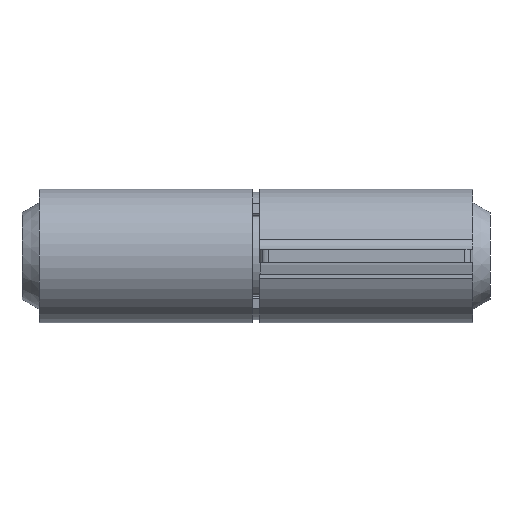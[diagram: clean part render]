
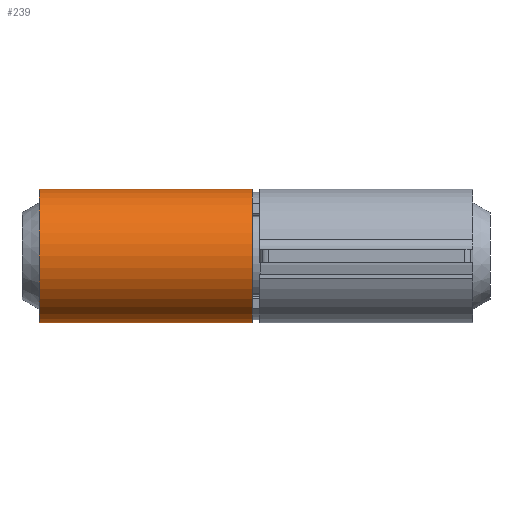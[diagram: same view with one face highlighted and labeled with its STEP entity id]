
A CAD part, front view. The second image highlights one B-rep face of the part: STEP entity #239.
In plain terms, the highlighted cylindrical face has radius 5.963 mm (diameter 11.925 mm), a partial arc.
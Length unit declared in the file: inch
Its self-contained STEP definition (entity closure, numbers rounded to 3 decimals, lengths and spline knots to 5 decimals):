
#239=ADVANCED_FACE('',(#484),#485,.T.);
#484=FACE_OUTER_BOUND('',#747,.T.);
#485=CYLINDRICAL_SURFACE('',#748,0.23474);
#747=EDGE_LOOP('',(#1306,#1307,#1308,#1309));
#748=AXIS2_PLACEMENT_3D('',#1310,#1311,#1312);
#1306=ORIENTED_EDGE('',*,*,#1728,.T.);
#1307=ORIENTED_EDGE('',*,*,#1737,.F.);
#1308=ORIENTED_EDGE('',*,*,#1633,.T.);
#1309=ORIENTED_EDGE('',*,*,#1641,.F.);
#1310=CARTESIAN_POINT('',(-12.01285,-4.,0.));
#1311=DIRECTION('',(-1.0,0.,0.));
#1312=DIRECTION('',(0.,0.,-1.0));
#1633=EDGE_CURVE('',#1990,#1991,#1992,.T.);
#1641=EDGE_CURVE('',#2002,#1991,#2004,.T.);
#1728=EDGE_CURVE('',#2002,#2122,#2123,.T.);
#1737=EDGE_CURVE('',#1990,#2122,#2133,.T.);
#1990=VERTEX_POINT('',#2437);
#1991=VERTEX_POINT('',#2438);
#1992=LINE('',#2439,#2440);
#2002=VERTEX_POINT('',#2451);
#2004=CIRCLE('',#2453,0.23474);
#2122=VERTEX_POINT('',#2603);
#2123=LINE('',#2604,#2605);
#2133=CIRCLE('',#2616,0.23474);
#2437=CARTESIAN_POINT('',(-11.26285,-4.,0.23474));
#2438=CARTESIAN_POINT('',(-12.01285,-4.,0.23474));
#2439=CARTESIAN_POINT('',(-12.01285,-4.,0.23474));
#2440=VECTOR('',#2875,1.0);
#2451=CARTESIAN_POINT('',(-12.01285,-4.,-0.23474));
#2453=AXIS2_PLACEMENT_3D('',#2892,#2893,#2894);
#2603=CARTESIAN_POINT('',(-11.26285,-4.,-0.23474));
#2604=CARTESIAN_POINT('',(-12.01285,-4.,-0.23474));
#2605=VECTOR('',#3017,1.0);
#2616=AXIS2_PLACEMENT_3D('',#3028,#3029,#3030);
#2875=DIRECTION('',(-1.0,0.,0.));
#2892=CARTESIAN_POINT('',(-12.01285,-4.,0.));
#2893=DIRECTION('',(-1.0,0.,0.));
#2894=DIRECTION('',(0.,0.,-1.0));
#3017=DIRECTION('',(1.0,0.,0.));
#3028=CARTESIAN_POINT('',(-11.26285,-4.,0.));
#3029=DIRECTION('',(1.0,0.,0.));
#3030=DIRECTION('',(0.,0.,-1.0));
